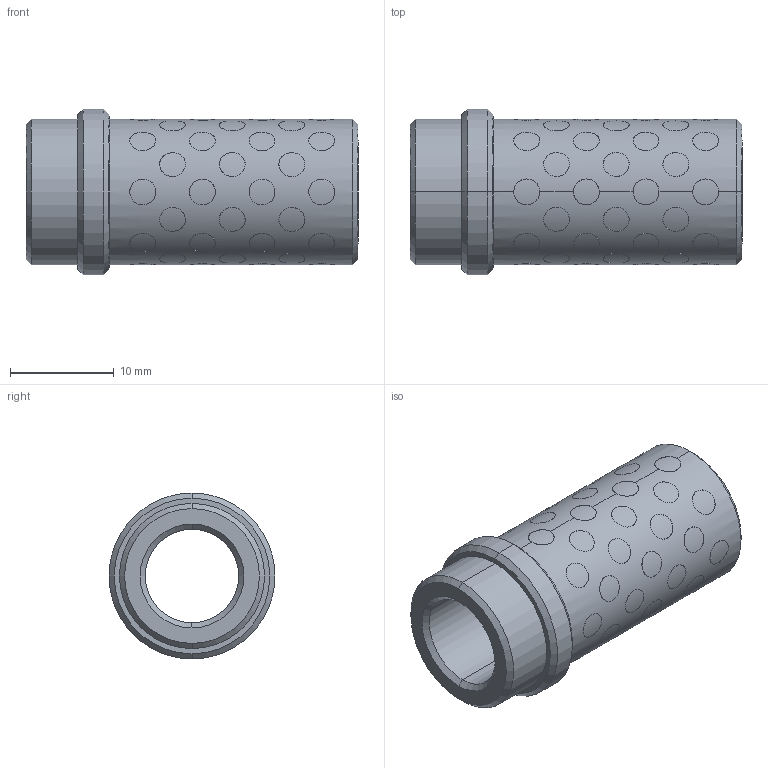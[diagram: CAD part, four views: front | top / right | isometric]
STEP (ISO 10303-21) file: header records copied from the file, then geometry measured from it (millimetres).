
FILE_DESCRIPTION((''),'2;1');
FILE_NAME('G31209027','2018-01-25T',('MANU'),(''),'PRO/ENGINEER BY PARAMETRIC TECHNOLOGY CORPORATION, 2012130','PRO/ENGINEER BY PARAMETRIC TECHNOLOGY CORPORATION, 2012130','');
FILE_SCHEMA(('CONFIG_CONTROL_DESIGN'));
Length unit declared in the file: millimetre
Products named in the file (1): G31209027
Bounding box: 32 x 16 x 16 mm (x, y, z)
Volume: 2992.9 mm3; surface area: 4747.2 mm2
Topology: 57 solids, 57 shells, 360 faces, 768 edges, 508 vertices
Faces by surface type: cylinder 344, cone 12, plane 4
Entity records: 15458 total; most frequent: CARTESIAN_POINT 8396, ORIENTED_EDGE 1536, DIRECTION 1036, EDGE_CURVE 768, VERTEX_POINT 508, B_SPLINE_CURVE_WITH_KNOTS 480, EDGE_LOOP 460, AXIS2_PLACEMENT_3D 388
